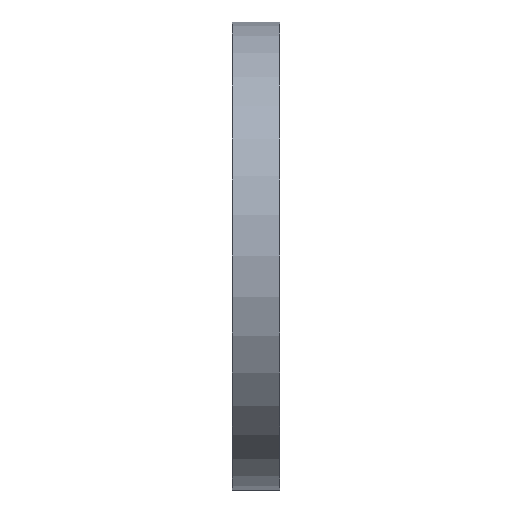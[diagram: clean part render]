
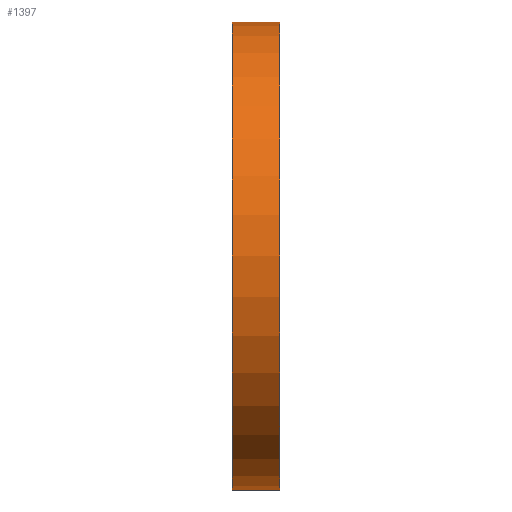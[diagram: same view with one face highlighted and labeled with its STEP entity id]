
A CAD part, left-side view. The second image highlights one B-rep face of the part: STEP entity #1397.
In plain terms, the highlighted cylindrical face has radius 257.5 mm (diameter 515 mm), a partial arc.
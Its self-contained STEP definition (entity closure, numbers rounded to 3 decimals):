
#23 = VERTEX_POINT ( 'NONE', #30 ) ;
#30 = CARTESIAN_POINT ( 'NONE',  ( 0., 52., 257.5 ) ) ;
#55 = DIRECTION ( 'NONE',  ( 0., 0., 1. ) ) ;
#99 = DIRECTION ( 'NONE',  ( 0., 0., 1. ) ) ;
#176 = CARTESIAN_POINT ( 'NONE',  ( 0., 34.695, 257.5 ) ) ;
#178 = EDGE_CURVE ( 'NONE', #616, #23, #947, .T. ) ;
#182 = ORIENTED_EDGE ( 'NONE', *, *, #652, .F. ) ;
#191 = EDGE_CURVE ( 'NONE', #820, #23, #738, .T. ) ;
#233 = CARTESIAN_POINT ( 'NONE',  ( 0., 0., 257.5 ) ) ;
#244 = CARTESIAN_POINT ( 'NONE',  ( 0., 0., -257.5 ) ) ;
#276 = ORIENTED_EDGE ( 'NONE', *, *, #501, .T. ) ;
#302 = CARTESIAN_POINT ( 'NONE',  ( 0., 52., 0. ) ) ;
#319 = AXIS2_PLACEMENT_3D ( 'NONE', #302, #534, #99 ) ;
#344 = VERTEX_POINT ( 'NONE', #244 ) ;
#487 = CARTESIAN_POINT ( 'NONE',  ( 0., 0., 0. ) ) ;
#501 = EDGE_CURVE ( 'NONE', #344, #820, #1071, .T. ) ;
#534 = DIRECTION ( 'NONE',  ( 0., 1., 0. ) ) ;
#607 = DIRECTION ( 'NONE',  ( 0., 1., 0. ) ) ;
#616 = VERTEX_POINT ( 'NONE', #1293 ) ;
#652 = EDGE_CURVE ( 'NONE', #344, #616, #852, .T. ) ;
#657 = AXIS2_PLACEMENT_3D ( 'NONE', #487, #1045, #933 ) ;
#667 = VECTOR ( 'NONE', #744, 1000. ) ;
#738 = LINE ( 'NONE', #176, #667 ) ;
#744 = DIRECTION ( 'NONE',  ( 0., 1., 0. ) ) ;
#820 = VERTEX_POINT ( 'NONE', #233 ) ;
#852 = LINE ( 'NONE', #948, #1155 ) ;
#904 = ORIENTED_EDGE ( 'NONE', *, *, #191, .T. ) ;
#933 = DIRECTION ( 'NONE',  ( 0., 0., 1. ) ) ;
#947 = CIRCLE ( 'NONE', #319, 257.5 ) ;
#948 = CARTESIAN_POINT ( 'NONE',  ( 0., 34.695, -257.5 ) ) ;
#1045 = DIRECTION ( 'NONE',  ( 0., 1., 0. ) ) ;
#1061 = DIRECTION ( 'NONE',  ( 0., 1., 0. ) ) ;
#1063 = CYLINDRICAL_SURFACE ( 'NONE', #1403, 257.5 ) ;
#1071 = CIRCLE ( 'NONE', #657, 257.5 ) ;
#1137 = EDGE_LOOP ( 'NONE', ( #182, #276, #904, #1269 ) ) ;
#1155 = VECTOR ( 'NONE', #1061, 1000. ) ;
#1269 = ORIENTED_EDGE ( 'NONE', *, *, #178, .F. ) ;
#1282 = FACE_OUTER_BOUND ( 'NONE', #1137, .T. ) ;
#1293 = CARTESIAN_POINT ( 'NONE',  ( 0., 52., -257.5 ) ) ;
#1355 = CARTESIAN_POINT ( 'NONE',  ( 0., 34.695, 0. ) ) ;
#1397 = ADVANCED_FACE ( 'NONE', ( #1282 ), #1063, .T. ) ;
#1403 = AXIS2_PLACEMENT_3D ( 'NONE', #1355, #607, #55 ) ;
